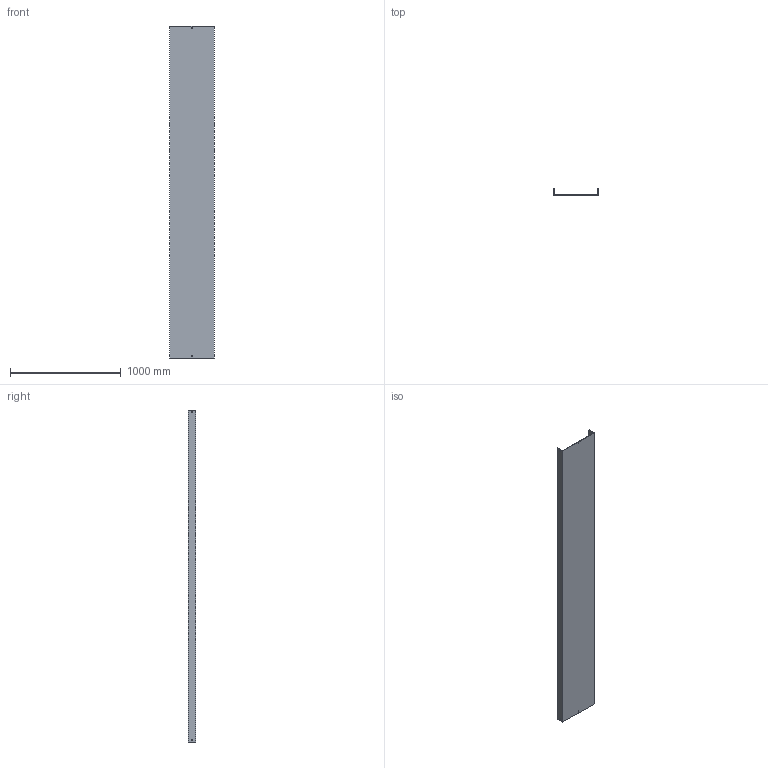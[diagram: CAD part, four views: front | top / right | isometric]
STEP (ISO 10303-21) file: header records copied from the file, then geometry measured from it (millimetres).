
FILE_DESCRIPTION (( 'STEP AP214' ), '1' );
FILE_NAME ('03B3H400.step', '2025-02-21T10:18:18', ( '' ), ( '' ), 'SwSTEP 2.0', 'SolidWorks 2023', '' );
FILE_SCHEMA (( 'AUTOMOTIVE_DESIGN' ));
Length unit declared in the file: millimetre
Products named in the file (1): 03B3H400
Bounding box: 404 x 65.5 x 3000 mm (x, y, z)
Volume: 5542610.5 mm3; surface area: 3192595 mm2
Topology: 1 solids, 1 shells, 34 faces, 96 edges, 64 vertices
Faces by surface type: plane 34
Entity records: 1127 total; most frequent: CARTESIAN_POINT 195, ORIENTED_EDGE 192, DIRECTION 166, VECTOR 96, LINE 96, EDGE_CURVE 96, VERTEX_POINT 64, EDGE_LOOP 46
